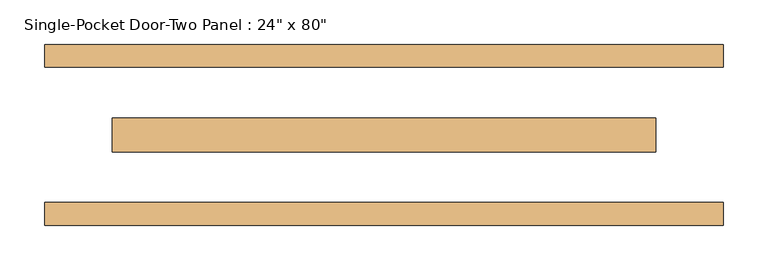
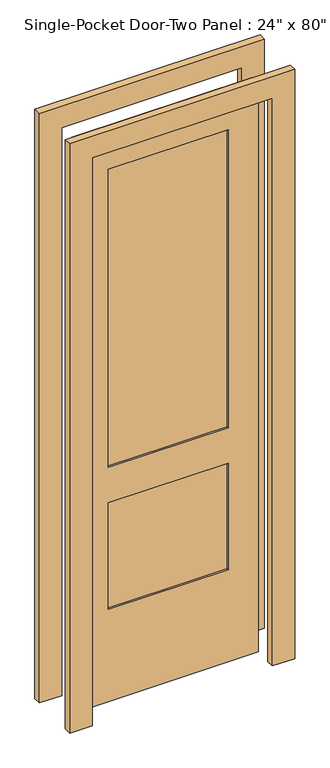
"""IFC4 building model written with IfcOpenShell, lengths in millimetres: door geometry."""

from ifc_helpers import new_model, si_unit, frame, origin, place, context, project, spatial, polyline, outline, extrude, source, transform, mapped, element, save


def door_06826e7e(model_context):
    return source(origin(), model_context, "Body", "SweptSolid", [
        extrude(outline(polyline([(-203.2, 12.7), (203.2, 12.7), (203.2, -12.7), (-203.2, -12.7), (-203.2, 12.7)])), frame((0.0, 0.0, 838.2), z_axis=(0.0, 0.0, 1.0), x_axis=(1.0, 0.0, 0.0)), (0.0, 0.0, 1.0), 1066.8),
        extrude(outline(polyline([(-203.2, 12.7), (203.2, 12.7), (203.2, -12.7), (-203.2, -12.7), (-203.2, 12.7)])), frame((0.0, 0.0, 330.2), z_axis=(0.0, 0.0, 1.0), x_axis=(1.0, 0.0, 0.0)), (0.0, 0.0, 1.0), 381.0),
        extrude(outline(polyline([(2032.0, -304.8), (0.0, -304.8), (0.0, 304.8), (2032.0, 304.8), (2032.0, -304.8)]), holes=[polyline([(711.2, -203.2), (711.2, 203.2), (330.2, 203.2), (330.2, -203.2), (711.2, -203.2)]), polyline([(1905.0, -203.2), (1905.0, 203.2), (838.2, 203.2), (838.2, -203.2), (1905.0, -203.2)])]), frame((0.0, -19.05, 0.0), z_axis=(0.0, 1.0, 0.0), x_axis=(0.0, 0.0, 1.0)), (0.0, 0.0, 1.0), 38.1),
        extrude(outline(polyline([(2032.0, -304.8), (2032.0, 304.8), (0.0, 304.8), (0.0, 381.0), (2108.2, 381.0), (2108.2, -381.0), (0.0, -381.0), (0.0, -304.8), (2032.0, -304.8)])), frame((0.0, -101.6, 0.0), z_axis=(0.0, 1.0, 0.0), x_axis=(0.0, 0.0, 1.0)), (0.0, 0.0, 1.0), 25.4),
        extrude(outline(polyline([(2032.0, -304.8), (2032.0, 304.8), (0.0, 304.8), (0.0, 381.0), (2108.2, 381.0), (2108.2, -381.0), (0.0, -381.0), (0.0, -304.8), (2032.0, -304.8)])), frame((0.0, 76.2, 0.0), z_axis=(0.0, 1.0, 0.0), x_axis=(0.0, 0.0, 1.0)), (0.0, 0.0, 1.0), 25.4),
    ])


if __name__ == "__main__":
    model = new_model("IFC4")
    model_context = context("Model", 3, world=origin())
    ifc_project = project(units=[si_unit("LENGTHUNIT", "METRE", prefix="MILLI")], contexts=[model_context])
    site = spatial("IfcSite", under=ifc_project)
    building = spatial("IfcBuilding", under=site)
    placement = place(None, origin())
    door_shape = door_06826e7e(model_context)
    element("IfcDoor", 1, ObjectType="Single-Pocket Door-Two Panel : 24\" x 80\"", at=placement, inside=building, context=model_context, shape_type="MappedRepresentation", body=[
        mapped(door_shape, transform((0.0, 0.0, 0.0), x_axis=(1.0, 0.0, 0.0), y_axis=(0.0, 1.0, 0.0), z_axis=(0.0, 0.0, 1.0))),
    ])
    save(model, "model.ifc")
